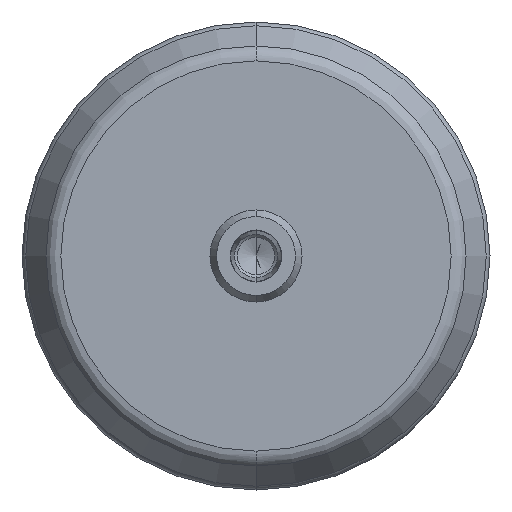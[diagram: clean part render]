
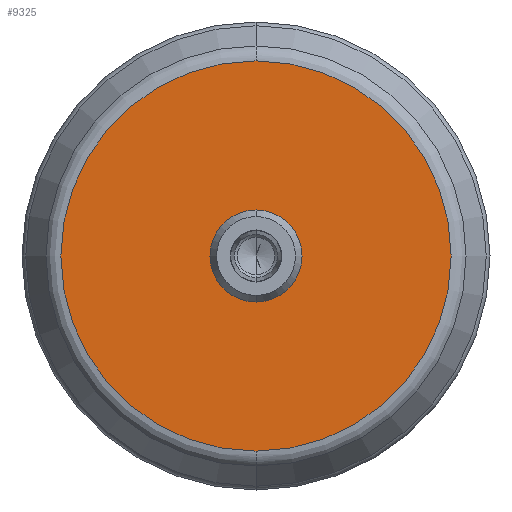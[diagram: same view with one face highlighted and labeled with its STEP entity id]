
A CAD part, front view. The second image highlights one B-rep face of the part: STEP entity #9325.
In plain terms, the highlighted planar face has unit normal (0, -1, 0).
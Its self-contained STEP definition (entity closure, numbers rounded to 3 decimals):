
#85 = AXIS2_PLACEMENT_3D ( 'NONE', #9502, #5563, #4790 ) ;
#276 = VERTEX_POINT ( 'NONE', #3511 ) ;
#582 = DIRECTION ( 'NONE',  ( 0., 1., 0. ) ) ;
#1673 = CARTESIAN_POINT ( 'NONE',  ( 0., 0., 0. ) ) ;
#1738 = AXIS2_PLACEMENT_3D ( 'NONE', #9483, #4658, #3142 ) ;
#2865 = EDGE_LOOP ( 'NONE', ( #6515, #7134 ) ) ;
#2989 = DIRECTION ( 'NONE',  ( 0., 0., 1. ) ) ;
#3054 = DIRECTION ( 'NONE',  ( 0., 0., 1. ) ) ;
#3142 = DIRECTION ( 'NONE',  ( 0., 0., 1. ) ) ;
#3151 = FACE_BOUND ( 'NONE', #2865, .T. ) ;
#3415 = FACE_OUTER_BOUND ( 'NONE', #6942, .T. ) ;
#3511 = CARTESIAN_POINT ( 'NONE',  ( 0., 0., 33.892 ) ) ;
#4043 = EDGE_CURVE ( 'NONE', #9859, #9128, #10093, .T. ) ;
#4409 = EDGE_CURVE ( 'NONE', #9128, #9859, #7606, .T. ) ;
#4658 = DIRECTION ( 'NONE',  ( 0., 1., 0. ) ) ;
#4790 = DIRECTION ( 'NONE',  ( 0., 0., 1. ) ) ;
#4975 = CARTESIAN_POINT ( 'NONE',  ( 0., 0., -33.892 ) ) ;
#5450 = AXIS2_PLACEMENT_3D ( 'NONE', #6900, #582, #2989 ) ;
#5563 = DIRECTION ( 'NONE',  ( 0., 1., 0. ) ) ;
#6266 = AXIS2_PLACEMENT_3D ( 'NONE', #1673, #6585, #7256 ) ;
#6515 = ORIENTED_EDGE ( 'NONE', *, *, #4409, .T. ) ;
#6535 = CIRCLE ( 'NONE', #5450, 33.892 ) ;
#6585 = DIRECTION ( 'NONE',  ( 0., -1., 0. ) ) ;
#6900 = CARTESIAN_POINT ( 'NONE',  ( 0., 0., 0. ) ) ;
#6942 = EDGE_LOOP ( 'NONE', ( #7453, #10344 ) ) ;
#6961 = VERTEX_POINT ( 'NONE', #4975 ) ;
#7134 = ORIENTED_EDGE ( 'NONE', *, *, #4043, .T. ) ;
#7256 = DIRECTION ( 'NONE',  ( 0., 0., -1. ) ) ;
#7453 = ORIENTED_EDGE ( 'NONE', *, *, #9940, .F. ) ;
#7606 = CIRCLE ( 'NONE', #8764, 7.75 ) ;
#7730 = CARTESIAN_POINT ( 'NONE',  ( 0., 0., 0. ) ) ;
#7755 = CIRCLE ( 'NONE', #1738, 33.892 ) ;
#7884 = EDGE_CURVE ( 'NONE', #6961, #276, #6535, .T. ) ;
#8525 = DIRECTION ( 'NONE',  ( 0., 1., 0. ) ) ;
#8764 = AXIS2_PLACEMENT_3D ( 'NONE', #7730, #8525, #3054 ) ;
#9128 = VERTEX_POINT ( 'NONE', #9616 ) ;
#9316 = CARTESIAN_POINT ( 'NONE',  ( 0., 0., -7.75 ) ) ;
#9325 = ADVANCED_FACE ( 'NONE', ( #3151, #3415 ), #9725, .T. ) ;
#9483 = CARTESIAN_POINT ( 'NONE',  ( 0., 0., 0. ) ) ;
#9502 = CARTESIAN_POINT ( 'NONE',  ( 0., 0., 0. ) ) ;
#9616 = CARTESIAN_POINT ( 'NONE',  ( 0., 0., 7.75 ) ) ;
#9725 = PLANE ( 'NONE',  #6266 ) ;
#9859 = VERTEX_POINT ( 'NONE', #9316 ) ;
#9940 = EDGE_CURVE ( 'NONE', #276, #6961, #7755, .T. ) ;
#10093 = CIRCLE ( 'NONE', #85, 7.75 ) ;
#10344 = ORIENTED_EDGE ( 'NONE', *, *, #7884, .F. ) ;
